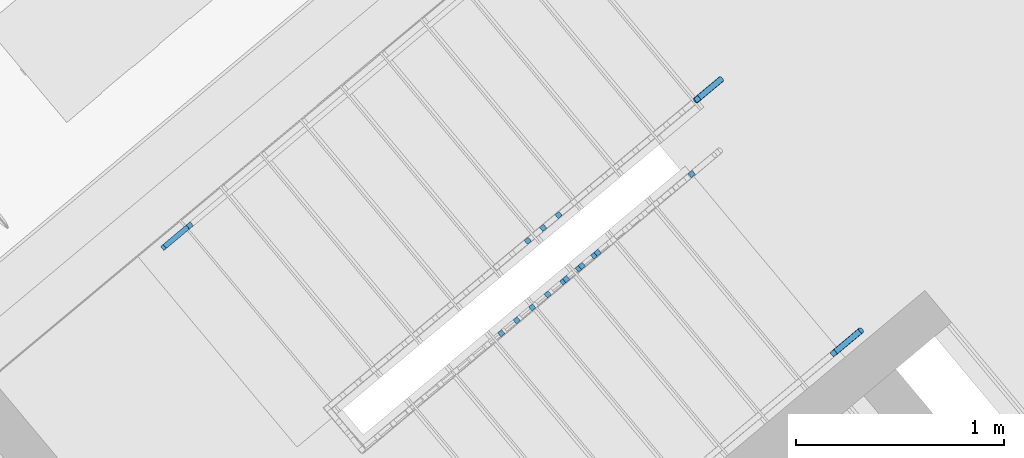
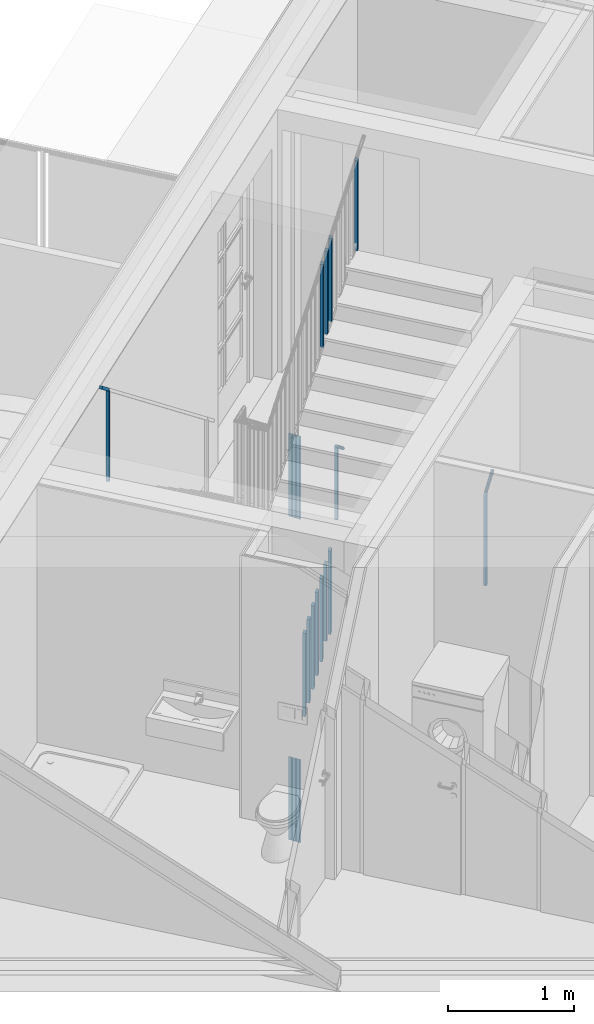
# One storey, part 61 of 75: 23 building element parts, 4 elements without a shape of their own.
"""IFC4 building model written with IfcOpenShell, lengths in metres."""

from ifc_helpers import new_model, entity, si_unit, converted_unit, derived_unit, direction, frame, origin_with_axes, place, context, subcontext, project, spatial, polygons, material, type_object, element, aggregate, save


model = new_model("IFC4")

# Units and contexts
model_context = context("Model", 3, precision=1e-05, world=origin_with_axes(), true_north=direction((0.0, 1.0)))
body_context = subcontext(model_context, "Body", "Model", "MODEL_VIEW")
ifc_project = project(units=[si_unit("LENGTHUNIT", "METRE"), si_unit("AREAUNIT", "SQUARE_METRE"), si_unit("VOLUMEUNIT", "CUBIC_METRE"), converted_unit("PLANEANGLEUNIT", "DEGREE", entity("IfcPlaneAngleMeasure", 0.0174532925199), si_unit("PLANEANGLEUNIT", "RADIAN"), dimensions=[0, 0, 0, 0, 0, 0, 0]), converted_unit("TIMEUNIT", "Year", entity("IfcTimeMeasure", 31556926.0), si_unit("TIMEUNIT", "SECOND"), dimensions=[0, 0, 1, 0, 0, 0, 0]), si_unit("MASSUNIT", "GRAM", prefix="KILO"), si_unit("THERMODYNAMICTEMPERATUREUNIT", "DEGREE_CELSIUS"), si_unit("LUMINOUSINTENSITYUNIT", "LUMEN"), si_unit("ENERGYUNIT", "JOULE", prefix="MEGA"), derived_unit("THERMALCONDUCTANCEUNIT", [(si_unit("POWERUNIT", "WATT"), 1), (si_unit("LENGTHUNIT", "METRE"), -1), (si_unit("THERMODYNAMICTEMPERATUREUNIT", "KELVIN"), -1)]), derived_unit("SPECIFICHEATCAPACITYUNIT", [(si_unit("ENERGYUNIT", "JOULE"), 1), (si_unit("MASSUNIT", "GRAM", prefix="KILO"), -1), (si_unit("THERMODYNAMICTEMPERATUREUNIT", "KELVIN"), -1)]), derived_unit("MASSDENSITYUNIT", [(si_unit("MASSUNIT", "GRAM", prefix="KILO"), 1), (si_unit("VOLUMEUNIT", "CUBIC_METRE"), -1)])], contexts=[model_context])

# Site, building, storey, space
site_placement = place(None, frame((-0.00153261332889, -0.00661245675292, 0.0), z_axis=(0.0, 0.0, 1.0), x_axis=(1.0, 0.0, 0.0)))
site = spatial("IfcSite", under=ifc_project, at=site_placement, Name="Gelände", CompositionType="ELEMENT")
building_placement = place(site_placement, origin_with_axes())
building = spatial("IfcBuilding", under=site, at=building_placement, Name="Gebäude", CompositionType="ELEMENT")
storey_placement = place(building_placement, frame((0.0, 0.0, -0.22), z_axis=(0.0, 0.0, 1.0), x_axis=(1.0, 0.0, 0.0)))
storey = spatial("IfcBuildingStorey", under=building, at=storey_placement, Name="EG", CompositionType="ELEMENT", Elevation=-0.22)
space_placement = place(storey_placement, frame((-1.16508896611, 24.7530172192, 0.22), z_axis=(0.0, 0.0, 1.0), x_axis=(0.641170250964, -0.76739866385, 0.0)))
space = spatial("IfcSpace", under=storey, at=space_placement, CompositionType="ELEMENT", PredefinedType="NOTDEFINED")

# Railing, building element parts
railing_type = type_object("IfcRailingType", Name="Geländerart", PredefinedType="NOTDEFINED")
railing_1_placement = place(space_placement, frame((1.19553434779, -1.19750858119e-08, -0.17), z_axis=(0.0, 0.0, 1.0), x_axis=(0.641170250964, 0.76739866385, 0.0)))
railing_1 = element("IfcRailing", 1, at=railing_1_placement, inside=space, type_object=railing_type, Name="Geländer - 001", PredefinedType="NOTDEFINED")
ifc_material = material(Name="BEKLEIDUNG")
building_element_part_1_placement = place(railing_1_placement, origin_with_axes())
building_element_part_1 = element("IfcBuildingElementPart", 2, at=building_element_part_1_placement, material=ifc_material, Name="BEKLEIDUNG", PredefinedType="NOTDEFINED", context=body_context, shape_type="Tessellation", body=[
    polygons([(-0.0496656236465, 0.0399477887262, 0.177058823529), (-0.0336363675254, 0.0207628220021, 0.177058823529), (-0.0336363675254, 0.0207628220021, 0.889746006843), (-0.0496656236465, 0.0399477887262, 0.889746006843), (-0.0304806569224, 0.0559770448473, 0.177058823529), (-0.0144514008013, 0.0367920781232, 0.177058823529), (-0.0144514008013, 0.0367920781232, 0.870253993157), (-0.0304806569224, 0.0559770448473, 0.870253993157)], [[[1, 2, 3, 4]], [[1, 5, 6, 2]], [[2, 6, 7, 3]], [[4, 3, 7, 8]], [[5, 1, 4, 8]], [[6, 5, 8, 7]]], closed=True),
])
building_element_part_2_placement = place(railing_1_placement, origin_with_axes())
building_element_part_2 = element("IfcBuildingElementPart", 3, at=building_element_part_2_placement, material=ifc_material, Name="BEKLEIDUNG", PredefinedType="NOTDEFINED", context=body_context, shape_type="Tessellation", body=[
    polygons([(-0.0487538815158, 0.0439673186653, 0.88817063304), (-0.0473787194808, 0.0448193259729, 0.890224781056), (0.073659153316, 0.145947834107, 0.767249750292), (0.0722839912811, 0.1450958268, 0.765195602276), (-0.0498368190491, 0.0427655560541, 0.886116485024), (-0.0505946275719, 0.0412505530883, 0.884124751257), (-0.0510042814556, 0.0394683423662, 0.88225594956), (-0.0510533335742, 0.0374730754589, 0.880566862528), (-0.050740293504, 0.0353253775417, 0.879108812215), (-0.0500746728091, 0.0330905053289, 0.877926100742), (-0.0490766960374, 0.030836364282, 0.877054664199), (-0.0477766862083, 0.0286314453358, 0.876520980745), (-0.0462141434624, 0.026542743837, 0.87634126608), (-0.0444365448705, 0.0246337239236, 0.876520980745), (-0.0424979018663, 0.0229623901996, 0.877054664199), (-0.0404571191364, 0.0215795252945, 0.877926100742), (-0.0383762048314, 0.0205271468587, 0.879108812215), (-0.0363183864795, 0.0198372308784, 0.880566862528), (-0.03434618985, 0.0195307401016, 0.88225594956), (-0.0325195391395, 0.0196169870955, 0.884124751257), (-0.0308939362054, 0.0200933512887, 0.886116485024), (-0.0295187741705, 0.0209453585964, 0.88817063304), (-0.0284358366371, 0.0221471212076, 0.890224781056), (-0.0276780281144, 0.0236621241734, 0.892216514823), (-0.0272683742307, 0.0254443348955, 0.89408531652), (-0.0272193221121, 0.0274396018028, 0.895774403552), (-0.0275323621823, 0.02958729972, 0.897232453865), (-0.0281979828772, 0.0318221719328, 0.898415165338), (-0.0291959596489, 0.0340763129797, 0.899286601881), (-0.030495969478, 0.0362812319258, 0.899820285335), (-0.0320585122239, 0.0383699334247, 0.9), (-0.0338361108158, 0.0402789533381, 0.899820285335), (-0.03577475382, 0.0419502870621, 0.899286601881), (-0.0378155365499, 0.0433331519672, 0.898415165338), (-0.0398964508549, 0.044385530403, 0.897232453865), (-0.0419542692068, 0.0450754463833, 0.895774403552), (-0.0439264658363, 0.04538193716, 0.89408531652), (-0.0457531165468, 0.0452956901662, 0.892216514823), (0.0752847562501, 0.146424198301, 0.76924148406), (0.0771114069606, 0.146510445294, 0.771110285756), (0.0790836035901, 0.146203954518, 0.772799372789), (0.081141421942, 0.145514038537, 0.774257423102), (0.083222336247, 0.144461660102, 0.775440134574), (0.0852631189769, 0.143078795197, 0.776311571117), (0.0872017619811, 0.141407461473, 0.776845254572), (0.088979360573, 0.139498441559, 0.777024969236), (0.0905419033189, 0.13740974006, 0.776845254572), (0.091841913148, 0.135204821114, 0.776311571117), (0.0928398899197, 0.132950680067, 0.775440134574), (0.0935055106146, 0.130715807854, 0.774257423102), (0.0938185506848, 0.128568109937, 0.772799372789), (0.0937694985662, 0.12657284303, 0.771110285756), (0.0933598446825, 0.124790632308, 0.76924148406), (0.0926020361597, 0.123275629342, 0.767249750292), (0.0915190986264, 0.122073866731, 0.765195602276), (0.0901439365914, 0.121221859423, 0.763141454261), (0.0885183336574, 0.12074549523, 0.761149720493), (0.0866916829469, 0.120659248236, 0.759280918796), (0.0847194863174, 0.120965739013, 0.757591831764), (0.0826616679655, 0.121655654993, 0.756133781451), (0.0805807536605, 0.122708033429, 0.754951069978), (0.0785399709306, 0.124090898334, 0.754079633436), (0.0766013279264, 0.125762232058, 0.753545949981), (0.0748237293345, 0.127671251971, 0.753366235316), (0.0732611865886, 0.12975995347, 0.753545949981), (0.0719611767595, 0.131964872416, 0.754079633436), (0.0709631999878, 0.134219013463, 0.754951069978), (0.0702975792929, 0.136453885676, 0.756133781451), (0.0699845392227, 0.138601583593, 0.757591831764), (0.0700335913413, 0.140596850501, 0.759280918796), (0.070443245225, 0.142379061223, 0.761149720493), (0.0712010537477, 0.143894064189, 0.763141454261)], [[[1, 2, 3, 4]], [[1, 5, 6, 7, 8, 9, 10, 11, 12, 13, 14, 15, 16, 17, 18, 19, 20, 21, 22, 23, 24, 25, 26, 27, 28, 29, 30, 31, 32, 33, 34, 35, 36, 37, 38, 2]], [[2, 38, 39, 3]], [[4, 3, 39, 40, 41, 42, 43, 44, 45, 46, 47, 48, 49, 50, 51, 52, 53, 54, 55, 56, 57, 58, 59, 60, 61, 62, 63, 64, 65, 66, 67, 68, 69, 70, 71, 72]], [[5, 1, 4, 72]], [[6, 5, 72, 71]], [[7, 6, 71, 70]], [[8, 7, 70, 69]], [[9, 8, 69, 68]], [[10, 9, 68, 67]], [[11, 10, 67, 66]], [[12, 11, 66, 65]], [[13, 12, 65, 64]], [[14, 13, 64, 63]], [[15, 14, 63, 62]], [[16, 15, 62, 61]], [[17, 16, 61, 60]], [[18, 17, 60, 59]], [[19, 18, 59, 58]], [[20, 19, 58, 57]], [[21, 20, 57, 56]], [[22, 21, 56, 55]], [[23, 22, 55, 54]], [[24, 23, 54, 53]], [[25, 24, 53, 52]], [[26, 25, 52, 51]], [[27, 26, 51, 50]], [[28, 27, 50, 49]], [[29, 28, 49, 48]], [[30, 29, 48, 47]], [[31, 30, 47, 46]], [[32, 31, 46, 45]], [[33, 32, 45, 44]], [[34, 33, 44, 43]], [[35, 34, 43, 42]], [[36, 35, 42, 41]], [[37, 36, 41, 40]], [[38, 37, 40, 39]]], closed=True),
])
building_element_part_3_placement = place(railing_1_placement, origin_with_axes())
building_element_part_3 = element("IfcBuildingElementPart", 4, at=building_element_part_3_placement, material=ifc_material, Name="BEKLEIDUNG", PredefinedType="NOTDEFINED", context=body_context, shape_type="Tessellation", body=[
    polygons([(-0.0409350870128, -0.323945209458, 3.01), (-0.0569653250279, -0.30476106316, 3.01), (-0.0569653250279, -0.30476106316, 3.89767233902), (-0.0409350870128, -0.323945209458, 3.89767233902), (-0.0601192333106, -0.339975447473, 3.01), (-0.0761494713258, -0.320791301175, 3.01), (-0.0761494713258, -0.320791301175, 3.88232766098), (-0.0601192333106, -0.339975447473, 3.88232766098)], [[[1, 2, 3, 4]], [[1, 5, 6, 2]], [[2, 6, 7, 3]], [[4, 3, 7, 8]], [[5, 1, 4, 8]], [[6, 5, 8, 7]]], closed=True),
])
building_element_part_4_placement = place(railing_1_placement, origin_with_axes())
building_element_part_4 = element("IfcBuildingElementPart", 5, at=building_element_part_4_placement, material=ifc_material, Name="BEKLEIDUNG", PredefinedType="NOTDEFINED", context=body_context, shape_type="Tessellation", body=[
    polygons([(-0.717566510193, -0.518090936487, 0.758336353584), (-0.701537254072, -0.537275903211, 0.758336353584), (-0.701537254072, -0.537275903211, 1.56583635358), (-0.717566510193, -0.518090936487, 1.56583635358), (-0.698381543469, -0.502061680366, 0.738844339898), (-0.682352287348, -0.52124664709, 0.738844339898), (-0.682352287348, -0.52124664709, 1.5463443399), (-0.698381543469, -0.502061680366, 1.5463443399)], [[[1, 2, 3, 4]], [[1, 5, 6, 2]], [[2, 6, 7, 3]], [[4, 3, 7, 8]], [[5, 1, 4, 8]], [[6, 5, 8, 7]]], closed=True),
])
building_element_part_5_placement = place(railing_1_placement, origin_with_axes())
building_element_part_5 = element("IfcBuildingElementPart", 6, at=building_element_part_5_placement, material=ifc_material, Name="BEKLEIDUNG", PredefinedType="NOTDEFINED", context=body_context, shape_type="Tessellation", body=[
    polygons([(-0.791777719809, -0.580095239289, 0.833735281), (-0.775748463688, -0.599280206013, 0.833735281), (-0.775748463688, -0.599280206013, 1.641235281), (-0.791777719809, -0.580095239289, 1.641235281), (-0.772592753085, -0.564065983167, 0.814243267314), (-0.756563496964, -0.583250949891, 0.814243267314), (-0.756563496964, -0.583250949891, 1.62174326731), (-0.772592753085, -0.564065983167, 1.62174326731)], [[[1, 2, 3, 4]], [[1, 5, 6, 2]], [[2, 6, 7, 3]], [[4, 3, 7, 8]], [[5, 1, 4, 8]], [[6, 5, 8, 7]]], closed=True),
])
building_element_part_6_placement = place(railing_1_placement, origin_with_axes())
building_element_part_6 = element("IfcBuildingElementPart", 7, at=building_element_part_6_placement, material=ifc_material, Name="BEKLEIDUNG", PredefinedType="NOTDEFINED", context=body_context, shape_type="Tessellation", body=[
    polygons([(-0.865988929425, -0.64209954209, 0.909134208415), (-0.849959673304, -0.661284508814, 0.909134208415), (-0.849959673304, -0.661284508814, 1.71663420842), (-0.865988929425, -0.64209954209, 1.71663420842), (-0.846803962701, -0.626070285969, 0.889642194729), (-0.83077470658, -0.645255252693, 0.889642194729), (-0.83077470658, -0.645255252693, 1.69714219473), (-0.846803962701, -0.626070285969, 1.69714219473)], [[[1, 2, 3, 4]], [[1, 5, 6, 2]], [[2, 6, 7, 3]], [[4, 3, 7, 8]], [[5, 1, 4, 8]], [[6, 5, 8, 7]]], closed=True),
])
building_element_part_7_placement = place(railing_1_placement, origin_with_axes())
building_element_part_7 = element("IfcBuildingElementPart", 8, at=building_element_part_7_placement, material=ifc_material, Name="BEKLEIDUNG", PredefinedType="NOTDEFINED", context=body_context, shape_type="Tessellation", body=[
    polygons([(-0.645849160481, -0.829410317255, 2.60382429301), (-0.661879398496, -0.810226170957, 2.60382429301), (-0.661879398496, -0.810226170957, 3.41132429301), (-0.645849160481, -0.829410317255, 3.41132429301), (-0.665033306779, -0.84544055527, 2.58847961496), (-0.681063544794, -0.826256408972, 2.58847961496), (-0.681063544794, -0.826256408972, 3.39597961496), (-0.665033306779, -0.84544055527, 3.39597961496)], [[[1, 2, 3, 4]], [[1, 5, 6, 2]], [[2, 6, 7, 3]], [[4, 3, 7, 8]], [[5, 1, 4, 8]], [[6, 5, 8, 7]]], closed=True),
])
building_element_part_8_placement = place(railing_1_placement, origin_with_axes())
building_element_part_8 = element("IfcBuildingElementPart", 9, at=building_element_part_8_placement, material=ifc_material, Name="BEKLEIDUNG", PredefinedType="NOTDEFINED", context=body_context, shape_type="Tessellation", body=[
    polygons([(-0.570234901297, -0.76622717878, 2.65588235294), (-0.586265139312, -0.747043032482, 2.65588235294), (-0.586265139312, -0.747043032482, 3.47430529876), (-0.570234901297, -0.76622717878, 3.47430529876), (-0.589419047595, -0.782257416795, 2.65588235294), (-0.60544928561, -0.763073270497, 2.65588235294), (-0.60544928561, -0.763073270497, 3.45896062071), (-0.589419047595, -0.782257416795, 3.45896062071)], [[[1, 2, 3, 4]], [[1, 5, 6, 2]], [[2, 6, 7, 3]], [[4, 3, 7, 8]], [[5, 1, 4, 8]], [[6, 5, 8, 7]]], closed=True),
])
building_element_part_9_placement = place(railing_1_placement, origin_with_axes())
building_element_part_9 = element("IfcBuildingElementPart", 10, at=building_element_part_9_placement, material=ifc_material, Name="BEKLEIDUNG", PredefinedType="NOTDEFINED", context=body_context, shape_type="Tessellation", body=[
    polygons([(-0.494620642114, -0.703044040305, 2.72478630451), (-0.510650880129, -0.683859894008, 2.72478630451), (-0.510650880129, -0.683859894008, 3.53228630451), (-0.494620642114, -0.703044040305, 3.53228630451), (-0.513804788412, -0.719074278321, 2.70944162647), (-0.529835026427, -0.699890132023, 2.70944162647), (-0.529835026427, -0.699890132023, 3.51694162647), (-0.513804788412, -0.719074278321, 3.51694162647)], [[[1, 2, 3, 4]], [[1, 5, 6, 2]], [[2, 6, 7, 3]], [[4, 3, 7, 8]], [[5, 1, 4, 8]], [[6, 5, 8, 7]]], closed=True),
])
aggregate(railing_1, [building_element_part_1, building_element_part_2, building_element_part_3, building_element_part_4, building_element_part_5, building_element_part_6, building_element_part_7, building_element_part_8, building_element_part_9])

railing_2_placement = place(space_placement, frame((-0.00446565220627, -2.37996111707e-09, -0.17), z_axis=(0.0, 0.0, 1.0), x_axis=(0.641170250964, 0.76739866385, 0.0)))
railing_2 = element("IfcRailing", 11, at=railing_2_placement, inside=space, type_object=railing_type, Name="Geländer - 001", PredefinedType="NOTDEFINED")
building_element_part_10_placement = place(railing_2_placement, origin_with_axes())
building_element_part_10 = element("IfcBuildingElementPart", 12, at=building_element_part_10_placement, material=ifc_material, Name="BEKLEIDUNG", PredefinedType="NOTDEFINED", context=body_context, shape_type="Tessellation", body=[
    polygons([(-1.7238702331, -1.48917941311, 1.77058823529), (-1.70784097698, -1.50836437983, 1.77058823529), (-1.70784097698, -1.50836437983, 2.66035877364), (-1.7238702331, -1.48917941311, 2.66035877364), (-1.70468526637, -1.47315015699, 1.77058823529), (-1.68865601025, -1.49233512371, 1.77058823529), (-1.68865601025, -1.49233512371, 2.64081769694), (-1.70468526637, -1.47315015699, 2.64081769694)], [[[1, 2, 3, 4]], [[1, 5, 6, 2]], [[2, 6, 7, 3]], [[4, 3, 7, 8]], [[5, 1, 4, 8]], [[6, 5, 8, 7]]], closed=True),
])
building_element_part_11_placement = place(railing_2_placement, origin_with_axes())
building_element_part_11 = element("IfcBuildingElementPart", 13, at=building_element_part_11_placement, material=ifc_material, Name="BEKLEIDUNG", PredefinedType="NOTDEFINED", context=body_context, shape_type="Tessellation", body=[
    polygons([(-1.71427774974, -1.48116478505, 2.67058823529), (-1.72609254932, -1.49103618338, 2.65089138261), (-1.84701525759, -1.59206847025, 2.77405864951), (-1.835200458, -1.58219707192, 2.79375550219), (-1.69824849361, -1.50034975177, 2.67058823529), (-1.7100632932, -1.5102211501, 2.65089138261), (-1.83098600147, -1.61125343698, 2.77405864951), (-1.81917120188, -1.60138203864, 2.79375550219)], [[[1, 2, 3, 4]], [[1, 5, 6, 2]], [[2, 6, 7, 3]], [[4, 3, 7, 8]], [[5, 1, 4, 8]], [[6, 5, 8, 7]]], closed=True),
])
aggregate(railing_2, [building_element_part_10, building_element_part_11])

railing_3_placement = place(space_placement, frame((2.55537213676, -0.0246817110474, -1.53333333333), z_axis=(0.0, 0.0, 1.0), x_axis=(0.641170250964, 0.76739866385, 0.0)))
railing_3 = element("IfcRailing", 14, at=railing_3_placement, inside=space, type_object=railing_type, Name="Geländer - 001", PredefinedType="NOTDEFINED")
building_element_part_12_placement = place(railing_3_placement, origin_with_axes())
building_element_part_12 = element("IfcBuildingElementPart", 15, at=building_element_part_12_placement, material=ifc_material, Name="BEKLEIDUNG", PredefinedType="NOTDEFINED", context=body_context, shape_type="Tessellation", body=[
    polygons([(-0.246178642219, -0.12425896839, 1.41333333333), (-0.230148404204, -0.143443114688, 1.41333333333), (-0.230148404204, -0.143443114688, 2.28443017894), (-0.246178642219, -0.12425896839, 2.28443017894), (-0.226994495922, -0.108228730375, 1.41333333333), (-0.210964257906, -0.127412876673, 1.41333333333), (-0.210964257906, -0.127412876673, 2.30223648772), (-0.226994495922, -0.108228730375, 2.30223648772)], [[[1, 2, 3, 4]], [[1, 5, 6, 2]], [[2, 6, 7, 3]], [[4, 3, 7, 8]], [[5, 1, 4, 8]], [[6, 5, 8, 7]]], closed=True),
])
building_element_part_13_placement = place(railing_3_placement, origin_with_axes())
building_element_part_13 = element("IfcBuildingElementPart", 16, at=building_element_part_13_placement, material=ifc_material, Name="BEKLEIDUNG", PredefinedType="NOTDEFINED", context=body_context, shape_type="Tessellation", body=[
    polygons([(-0.231511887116, -0.108745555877, 2.30111559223), (-0.23252533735, -0.109889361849, 2.30323718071), (-0.107518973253, -0.00543426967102, 2.41926537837), (-0.106505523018, -0.00429046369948, 2.4171437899), (-0.230206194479, -0.107951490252, 2.29899400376), (-0.228647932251, -0.107531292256, 2.29693687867), (-0.226884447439, -0.107497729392, 2.29500672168), (-0.224969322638, -0.107851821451, 2.29326217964), (-0.222960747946, -0.108582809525, 2.29175625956), (-0.220919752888, -0.109668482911, 2.29053471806), (-0.218908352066, -0.111075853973, 2.28963467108), (-0.216987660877, -0.112762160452, 2.28908346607), (-0.215216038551, -0.114676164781, 2.28889785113), (-0.213647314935, -0.116759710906, 2.28908346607), (-0.212329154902, -0.118949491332, 2.28963467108), (-0.211301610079, -0.12117897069, 2.29053471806), (-0.210595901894, -0.123380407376, 2.29175625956), (-0.210233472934, -0.125486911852, 2.29326217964), (-0.210225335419, -0.127434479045, 2.29500672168), (-0.210571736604, -0.129163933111, 2.29693687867), (-0.211262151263, -0.130622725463, 2.29899400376), (-0.212275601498, -0.131766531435, 2.30111559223), (-0.213581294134, -0.13256059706, 2.30323718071), (-0.215139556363, -0.132980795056, 2.3052943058), (-0.216903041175, -0.13301435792, 2.30722446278), (-0.218818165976, -0.132660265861, 2.30896900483), (-0.220826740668, -0.131929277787, 2.31047492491), (-0.222867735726, -0.130843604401, 2.3116964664), (-0.224879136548, -0.12943623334, 2.31259651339), (-0.226799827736, -0.12774992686, 2.31314771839), (-0.228571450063, -0.125835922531, 2.31333333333), (-0.230140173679, -0.123752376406, 2.31314771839), (-0.231458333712, -0.12156259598, 2.31259651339), (-0.232485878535, -0.119333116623, 2.3116964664), (-0.23319158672, -0.117131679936, 2.31047492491), (-0.23355401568, -0.11502517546, 2.30896900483), (-0.233562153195, -0.113077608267, 2.30722446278), (-0.23321575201, -0.111348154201, 2.3052943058), (-0.108209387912, -0.00689306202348, 2.42132250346), (-0.108555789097, -0.00862251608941, 2.42325266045), (-0.108547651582, -0.0105700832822, 2.42499720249), (-0.108185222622, -0.0126765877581, 2.42650312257), (-0.107479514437, -0.0148780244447, 2.42772466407), (-0.106451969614, -0.0171075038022, 2.42862471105), (-0.105133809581, -0.0192972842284, 2.42917591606), (-0.103565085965, -0.0213808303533, 2.429361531), (-0.101793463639, -0.0232948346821, 2.42917591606), (-0.0998727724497, -0.0249811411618, 2.42862471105), (-0.0978613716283, -0.0263885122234, 2.42772466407), (-0.0958203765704, -0.0274741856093, 2.42650312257), (-0.0938118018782, -0.0282051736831, 2.42499720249), (-0.0918966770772, -0.028559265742, 2.42325266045), (-0.0901331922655, -0.0285257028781, 2.42132250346), (-0.0885749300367, -0.0281055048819, 2.41926537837), (-0.0872692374, -0.0273114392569, 2.4171437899), (-0.0862557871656, -0.0261676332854, 2.41502220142), (-0.085565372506, -0.0247088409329, 2.41296507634), (-0.0852189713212, -0.022979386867, 2.41103491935), (-0.085227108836, -0.0210318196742, 2.4092903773), (-0.0855895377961, -0.0189253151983, 2.40778445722), (-0.0862952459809, -0.0167238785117, 2.40656291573), (-0.0873227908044, -0.0144943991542, 2.40566286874), (-0.088640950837, -0.012304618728, 2.40511166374), (-0.0902096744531, -0.0102210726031, 2.4049260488), (-0.0919812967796, -0.00830706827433, 2.40511166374), (-0.0939019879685, -0.00662076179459, 2.40566286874), (-0.09591338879, -0.00521339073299, 2.40656291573), (-0.0979543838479, -0.00412771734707, 2.40778445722), (-0.0999629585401, -0.00339672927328, 2.4092903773), (-0.101878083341, -0.00304263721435, 2.41103491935), (-0.103641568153, -0.0030762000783, 2.41296507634), (-0.105199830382, -0.00349639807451, 2.41502220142)], [[[1, 2, 3, 4]], [[1, 5, 6, 7, 8, 9, 10, 11, 12, 13, 14, 15, 16, 17, 18, 19, 20, 21, 22, 23, 24, 25, 26, 27, 28, 29, 30, 31, 32, 33, 34, 35, 36, 37, 38, 2]], [[2, 38, 39, 3]], [[4, 3, 39, 40, 41, 42, 43, 44, 45, 46, 47, 48, 49, 50, 51, 52, 53, 54, 55, 56, 57, 58, 59, 60, 61, 62, 63, 64, 65, 66, 67, 68, 69, 70, 71, 72]], [[5, 1, 4, 72]], [[6, 5, 72, 71]], [[7, 6, 71, 70]], [[8, 7, 70, 69]], [[9, 8, 69, 68]], [[10, 9, 68, 67]], [[11, 10, 67, 66]], [[12, 11, 66, 65]], [[13, 12, 65, 64]], [[14, 13, 64, 63]], [[15, 14, 63, 62]], [[16, 15, 62, 61]], [[17, 16, 61, 60]], [[18, 17, 60, 59]], [[19, 18, 59, 58]], [[20, 19, 58, 57]], [[21, 20, 57, 56]], [[22, 21, 56, 55]], [[23, 22, 55, 54]], [[24, 23, 54, 53]], [[25, 24, 53, 52]], [[26, 25, 52, 51]], [[27, 26, 51, 50]], [[28, 27, 50, 49]], [[29, 28, 49, 48]], [[30, 29, 48, 47]], [[31, 30, 47, 46]], [[32, 31, 46, 45]], [[33, 32, 45, 44]], [[34, 33, 44, 43]], [[35, 34, 43, 42]], [[36, 35, 42, 41]], [[37, 36, 41, 40]], [[38, 37, 40, 39]]], closed=True),
])
aggregate(railing_3, [building_element_part_12, building_element_part_13])

railing_4_placement = place(space_placement, frame((1.1955343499, 0.255237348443, -3.3), z_axis=(0.0, 0.0, 1.0), x_axis=(0.641170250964, 0.76739866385, 0.0)))
railing_4 = element("IfcRailing", 17, at=railing_4_placement, inside=space, type_object=railing_type, Name="Geländer - 001", PredefinedType="NOTDEFINED")
building_element_part_14_placement = place(railing_4_placement, origin_with_axes())
building_element_part_14 = element("IfcBuildingElementPart", 18, at=building_element_part_14_placement, material=ifc_material, Name="BEKLEIDUNG", PredefinedType="NOTDEFINED", context=body_context, shape_type="Tessellation", body=[
    polygons([(-0.91343532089, -0.681741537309, 0.756811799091), (-0.897406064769, -0.700926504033, 0.756811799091), (-0.897406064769, -0.700926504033, 1.56431179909), (-0.91343532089, -0.681741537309, 1.56431179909), (-0.894250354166, -0.665712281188, 0.737362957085), (-0.878221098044, -0.684897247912, 0.737362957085), (-0.878221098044, -0.684897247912, 1.54486295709), (-0.894250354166, -0.665712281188, 1.54486295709)], [[[1, 2, 3, 4]], [[1, 5, 6, 2]], [[2, 6, 7, 3]], [[4, 3, 7, 8]], [[5, 1, 4, 8]], [[6, 5, 8, 7]]], closed=True),
])
building_element_part_15_placement = place(railing_4_placement, origin_with_axes())
building_element_part_15 = element("IfcBuildingElementPart", 19, at=building_element_part_15_placement, material=ifc_material, Name="BEKLEIDUNG", PredefinedType="NOTDEFINED", context=body_context, shape_type="Tessellation", body=[
    polygons([(-0.987646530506, -0.74374584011, 0.83204372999), (-0.971617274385, -0.762930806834, 0.83204372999), (-0.971617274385, -0.762930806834, 1.63954372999), (-0.987646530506, -0.74374584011, 1.63954372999), (-0.968461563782, -0.727716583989, 0.812594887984), (-0.952432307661, -0.746901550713, 0.812594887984), (-0.952432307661, -0.746901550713, 1.62009488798), (-0.968461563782, -0.727716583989, 1.62009488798)], [[[1, 2, 3, 4]], [[1, 5, 6, 2]], [[2, 6, 7, 3]], [[4, 3, 7, 8]], [[5, 1, 4, 8]], [[6, 5, 8, 7]]], closed=True),
])
building_element_part_16_placement = place(railing_4_placement, origin_with_axes())
building_element_part_16 = element("IfcBuildingElementPart", 20, at=building_element_part_16_placement, material=ifc_material, Name="BEKLEIDUNG", PredefinedType="NOTDEFINED", context=body_context, shape_type="Tessellation", body=[
    polygons([(-1.06185774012, -0.805750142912, 0.907275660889), (-1.045828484, -0.824935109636, 0.907275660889), (-1.045828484, -0.824935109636, 1.71477566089), (-1.06185774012, -0.805750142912, 1.71477566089), (-1.0426727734, -0.789720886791, 0.887826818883), (-1.02664351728, -0.808905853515, 0.887826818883), (-1.02664351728, -0.808905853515, 1.69532681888), (-1.0426727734, -0.789720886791, 1.69532681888)], [[[1, 2, 3, 4]], [[1, 5, 6, 2]], [[2, 6, 7, 3]], [[4, 3, 7, 8]], [[5, 1, 4, 8]], [[6, 5, 8, 7]]], closed=True),
])
building_element_part_17_placement = place(railing_4_placement, origin_with_axes())
building_element_part_17 = element("IfcBuildingElementPart", 21, at=building_element_part_17_placement, material=ifc_material, Name="BEKLEIDUNG", PredefinedType="NOTDEFINED", context=body_context, shape_type="Tessellation", body=[
    polygons([(-1.15378049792, -1.25381980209, 2.43096718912), (-1.16981073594, -1.23463565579, 2.43096718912), (-1.16981073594, -1.23463565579, 3.23846718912), (-1.15378049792, -1.25381980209, 3.23846718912), (-1.17296464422, -1.26985004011, 2.41321244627), (-1.18899488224, -1.25066589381, 2.41321244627), (-1.18899488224, -1.25066589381, 3.22071244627), (-1.17296464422, -1.26985004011, 3.22071244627)], [[[1, 2, 3, 4]], [[1, 5, 6, 2]], [[2, 6, 7, 3]], [[4, 3, 7, 8]], [[5, 1, 4, 8]], [[6, 5, 8, 7]]], closed=True),
])
building_element_part_18_placement = place(railing_4_placement, origin_with_axes())
building_element_part_18 = element("IfcBuildingElementPart", 22, at=building_element_part_18_placement, material=ifc_material, Name="BEKLEIDUNG", PredefinedType="NOTDEFINED", context=body_context, shape_type="Tessellation", body=[
    polygons([(-1.07923351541, -1.19152847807, 2.49995970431), (-1.09526375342, -1.17234433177, 2.49995970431), (-1.09526375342, -1.17234433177, 3.30745970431), (-1.07923351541, -1.19152847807, 3.30745970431), (-1.09841766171, -1.20755871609, 2.48220496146), (-1.11444789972, -1.18837456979, 2.48220496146), (-1.11444789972, -1.18837456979, 3.28970496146), (-1.09841766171, -1.20755871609, 3.28970496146)], [[[1, 2, 3, 4]], [[1, 5, 6, 2]], [[2, 6, 7, 3]], [[4, 3, 7, 8]], [[5, 1, 4, 8]], [[6, 5, 8, 7]]], closed=True),
])
building_element_part_19_placement = place(railing_4_placement, origin_with_axes())
building_element_part_19 = element("IfcBuildingElementPart", 23, at=building_element_part_19_placement, material=ifc_material, Name="BEKLEIDUNG", PredefinedType="NOTDEFINED", context=body_context, shape_type="Tessellation", body=[
    polygons([(-1.00468653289, -1.12923715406, 2.5689522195), (-1.02071677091, -1.11005300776, 2.5689522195), (-1.02071677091, -1.11005300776, 3.3764522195), (-1.00468653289, -1.12923715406, 3.3764522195), (-1.02387067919, -1.14526739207, 2.55119747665), (-1.03990091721, -1.12608324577, 2.55119747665), (-1.03990091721, -1.12608324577, 3.35869747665), (-1.02387067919, -1.14526739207, 3.35869747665)], [[[1, 2, 3, 4]], [[1, 5, 6, 2]], [[2, 6, 7, 3]], [[4, 3, 7, 8]], [[5, 1, 4, 8]], [[6, 5, 8, 7]]], closed=True),
])
building_element_part_20_placement = place(railing_4_placement, origin_with_axes())
building_element_part_20 = element("IfcBuildingElementPart", 24, at=building_element_part_20_placement, material=ifc_material, Name="BEKLEIDUNG", PredefinedType="NOTDEFINED", context=body_context, shape_type="Tessellation", body=[
    polygons([(-0.930139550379, -1.06694583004, 2.6379447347), (-0.946169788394, -1.04776168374, 2.6379447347), (-0.946169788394, -1.04776168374, 3.4454447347), (-0.930139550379, -1.06694583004, 3.4454447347), (-0.949323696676, -1.08297606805, 2.62018999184), (-0.965353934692, -1.06379192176, 2.62018999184), (-0.965353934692, -1.06379192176, 3.42768999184), (-0.949323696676, -1.08297606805, 3.42768999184)], [[[1, 2, 3, 4]], [[1, 5, 6, 2]], [[2, 6, 7, 3]], [[4, 3, 7, 8]], [[5, 1, 4, 8]], [[6, 5, 8, 7]]], closed=True),
])
building_element_part_21_placement = place(railing_4_placement, origin_with_axes())
building_element_part_21 = element("IfcBuildingElementPart", 25, at=building_element_part_21_placement, material=ifc_material, Name="BEKLEIDUNG", PredefinedType="NOTDEFINED", context=body_context, shape_type="Tessellation", body=[
    polygons([(-0.855592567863, -1.00465450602, 2.70693724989), (-0.871622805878, -0.985470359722, 2.70693724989), (-0.871622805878, -0.985470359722, 3.51443724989), (-0.855592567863, -1.00465450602, 3.51443724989), (-0.874776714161, -1.02068474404, 2.68918250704), (-0.890806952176, -1.00150059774, 2.68918250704), (-0.890806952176, -1.00150059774, 3.49668250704), (-0.874776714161, -1.02068474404, 3.49668250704)], [[[1, 2, 3, 4]], [[1, 5, 6, 2]], [[2, 6, 7, 3]], [[4, 3, 7, 8]], [[5, 1, 4, 8]], [[6, 5, 8, 7]]], closed=True),
])
building_element_part_22_placement = place(railing_4_placement, origin_with_axes())
building_element_part_22 = element("IfcBuildingElementPart", 26, at=building_element_part_22_placement, material=ifc_material, Name="BEKLEIDUNG", PredefinedType="NOTDEFINED", context=body_context, shape_type="Tessellation", body=[
    polygons([(-0.781045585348, -0.942363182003, 2.82666666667), (-0.797075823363, -0.923179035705, 2.82666666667), (-0.797075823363, -0.923179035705, 3.58592976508), (-0.781045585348, -0.942363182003, 3.58592976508), (-0.800229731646, -0.958393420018, 2.82666666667), (-0.816259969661, -0.93920927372, 2.82666666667), (-0.816259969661, -0.93920927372, 3.56817502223), (-0.800229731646, -0.958393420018, 3.56817502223)], [[[1, 2, 3, 4]], [[1, 5, 6, 2]], [[2, 6, 7, 3]], [[4, 3, 7, 8]], [[5, 1, 4, 8]], [[6, 5, 8, 7]]], closed=True),
])
building_element_part_23_placement = place(railing_4_placement, origin_with_axes())
building_element_part_23 = element("IfcBuildingElementPart", 27, at=building_element_part_23_placement, material=ifc_material, Name="BEKLEIDUNG", PredefinedType="NOTDEFINED", context=body_context, shape_type="Tessellation", body=[
    polygons([(-0.706498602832, -0.880071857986, 2.84492228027), (-0.722528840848, -0.860887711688, 2.84492228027), (-0.722528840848, -0.860887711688, 3.65242228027), (-0.706498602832, -0.880071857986, 3.65242228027), (-0.72568274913, -0.896102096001, 2.82716753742), (-0.741712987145, -0.876917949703, 2.82716753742), (-0.741712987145, -0.876917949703, 3.63466753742), (-0.72568274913, -0.896102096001, 3.63466753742)], [[[1, 2, 3, 4]], [[1, 5, 6, 2]], [[2, 6, 7, 3]], [[4, 3, 7, 8]], [[5, 1, 4, 8]], [[6, 5, 8, 7]]], closed=True),
])
aggregate(railing_4, [building_element_part_14, building_element_part_15, building_element_part_16, building_element_part_17, building_element_part_18, building_element_part_19, building_element_part_20, building_element_part_21, building_element_part_22, building_element_part_23])

save(model, "model.ifc")
